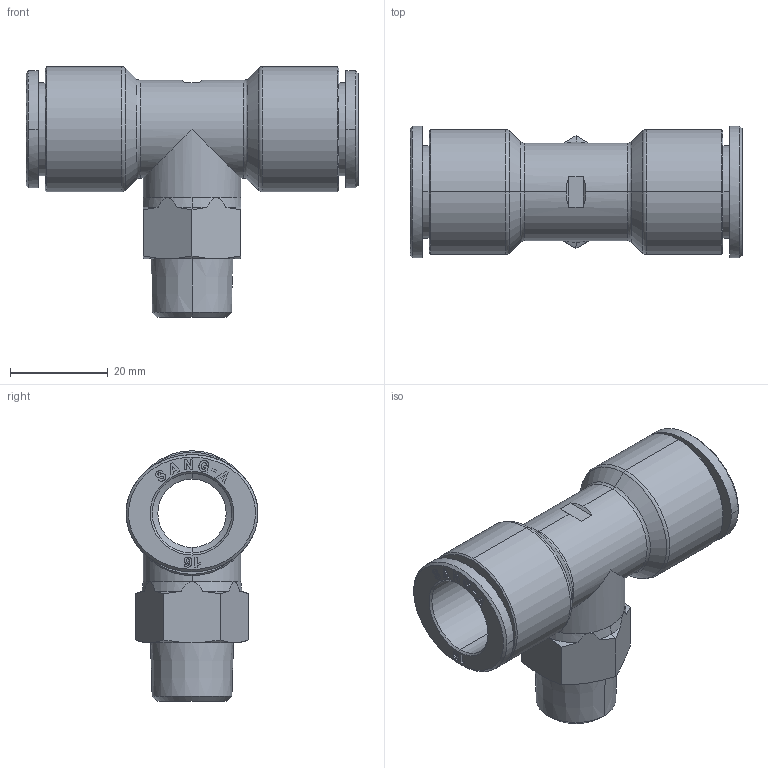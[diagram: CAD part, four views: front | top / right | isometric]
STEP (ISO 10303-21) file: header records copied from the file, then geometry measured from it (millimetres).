
FILE_DESCRIPTION((''),'2;1');
FILE_NAME('GPT 1603(3D).stp','2012-12-26T18:55:29',(''),(''),'Mechanical Desktop.R8.0.24.0','Mechanical Desktop.R8.0.24.0',', , ');
FILE_SCHEMA(('CONFIG_CONTROL_DESIGN'));
Length unit declared in the file: millimetre
Products named in the file (2): GPT 1603(3D); 睡ヶ1
Assembly tree (1 placements, depth 2):
  GPT 1603(3D)
    睡ヶ1
Bounding box: 68 x 27 x 51.3 mm (x, y, z)
Volume: 22946.8 mm3; surface area: 12411 mm2
Topology: 1 solids, 1 shells, 527 faces, 1440 edges, 941 vertices
Faces by surface type: plane 373, bspline 62, cone 48, cylinder 40, torus 4
Entity records: 18139 total; most frequent: CARTESIAN_POINT 4828, ORIENTED_EDGE 2876, DIRECTION 2578, EDGE_CURVE 1438, VECTOR 1140, LINE 1140, VERTEX_POINT 941, AXIS2_PLACEMENT_3D 719
